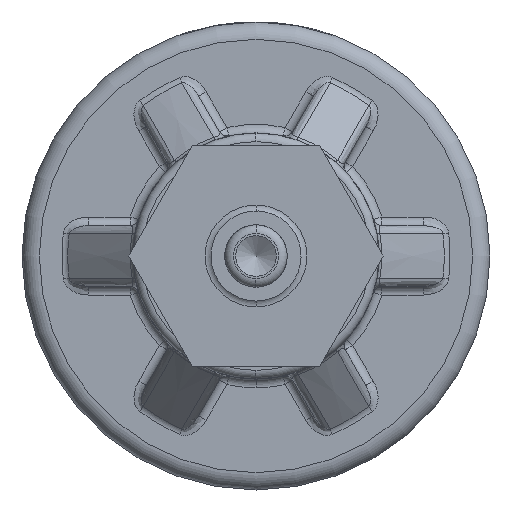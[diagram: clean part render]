
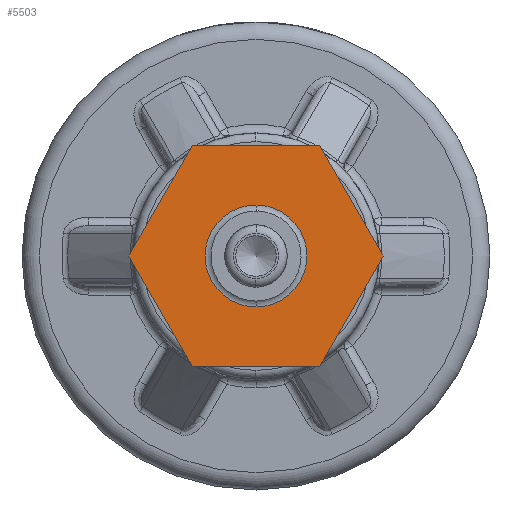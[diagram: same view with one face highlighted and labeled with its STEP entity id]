
A CAD part, left-side view. The second image highlights one B-rep face of the part: STEP entity #5503.
In plain terms, the highlighted planar face has unit normal (-1, 0, 0).
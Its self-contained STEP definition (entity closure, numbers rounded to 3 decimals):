
#155=FACE_BOUND('',#1117,.T.);
#183=PLANE('',#5908);
#347=CIRCLE('',#5860,1.469);
#379=CIRCLE('',#5909,1.469);
#767=FACE_OUTER_BOUND('',#1116,.T.);
#1116=EDGE_LOOP('',(#3522,#3523,#3524,#3525,#3526,#3527));
#1117=EDGE_LOOP('',(#3528,#3529));
#1666=LINE('',#8777,#1869);
#1668=LINE('',#8781,#1871);
#1670=LINE('',#8785,#1873);
#1672=LINE('',#8789,#1875);
#1674=LINE('',#8793,#1877);
#1676=LINE('',#8796,#1879);
#1869=VECTOR('',#6654,3.667);
#1871=VECTOR('',#6658,3.667);
#1873=VECTOR('',#6662,3.667);
#1875=VECTOR('',#6666,3.667);
#1877=VECTOR('',#6670,3.667);
#1879=VECTOR('',#6674,3.667);
#2085=VERTEX_POINT('',#8691);
#2086=VERTEX_POINT('',#8692);
#2115=VERTEX_POINT('',#8774);
#2116=VERTEX_POINT('',#8776);
#2117=VERTEX_POINT('',#8780);
#2118=VERTEX_POINT('',#8784);
#2119=VERTEX_POINT('',#8788);
#2120=VERTEX_POINT('',#8792);
#2600=EDGE_CURVE('',#2085,#2086,#347,.T.);
#2641=EDGE_CURVE('',#2115,#2116,#1666,.T.);
#2643=EDGE_CURVE('',#2116,#2117,#1668,.T.);
#2645=EDGE_CURVE('',#2117,#2118,#1670,.T.);
#2647=EDGE_CURVE('',#2118,#2119,#1672,.T.);
#2649=EDGE_CURVE('',#2119,#2120,#1674,.T.);
#2651=EDGE_CURVE('',#2120,#2115,#1676,.T.);
#2654=EDGE_CURVE('',#2086,#2085,#379,.T.);
#3522=ORIENTED_EDGE('',*,*,#2641,.F.);
#3523=ORIENTED_EDGE('',*,*,#2651,.F.);
#3524=ORIENTED_EDGE('',*,*,#2649,.F.);
#3525=ORIENTED_EDGE('',*,*,#2647,.F.);
#3526=ORIENTED_EDGE('',*,*,#2645,.F.);
#3527=ORIENTED_EDGE('',*,*,#2643,.F.);
#3528=ORIENTED_EDGE('',*,*,#2654,.T.);
#3529=ORIENTED_EDGE('',*,*,#2600,.T.);
#5503=ADVANCED_FACE('',(#767,#155),#183,.F.);
#5860=AXIS2_PLACEMENT_3D('',#8693,#6562,#6563);
#5908=AXIS2_PLACEMENT_3D('',#8841,#6677,#6678);
#5909=AXIS2_PLACEMENT_3D('',#8842,#6679,#6680);
#6562=DIRECTION('center_axis',(1.,0.,0.));
#6563=DIRECTION('ref_axis',(0.,0.,
1.));
#6654=DIRECTION('',(0.,0.5,0.866));
#6658=DIRECTION('',(0.,-0.5,0.866));
#6662=DIRECTION('',(0.,-1.,0.));
#6666=DIRECTION('',(0.,-0.5,-0.866));
#6670=DIRECTION('',(0.,0.5,-0.866));
#6674=DIRECTION('',(0.,1.,0.));
#6677=DIRECTION('center_axis',(1.,0.,0.));
#6678=DIRECTION('ref_axis',(0.,0.,-1.));
#6679=DIRECTION('center_axis',(1.,0.,0.));
#6680=DIRECTION('ref_axis',(0.,0.,-1.));
#8691=CARTESIAN_POINT('',(-11.625,0.,1.469));
#8692=CARTESIAN_POINT('',(-11.625,0.,-1.469));
#8693=CARTESIAN_POINT('Origin',(-11.625,0.,0.));
#8774=CARTESIAN_POINT('',(-11.625,1.834,-3.176));
#8776=CARTESIAN_POINT('',(-11.625,3.667,0.));
#8777=CARTESIAN_POINT('',(-11.625,1.834,-3.176));
#8780=CARTESIAN_POINT('',(-11.625,1.834,3.176));
#8781=CARTESIAN_POINT('',(-11.625,3.667,0.));
#8784=CARTESIAN_POINT('',(-11.625,-1.834,3.176));
#8785=CARTESIAN_POINT('',(-11.625,1.834,3.176));
#8788=CARTESIAN_POINT('',(-11.625,-3.667,0.));
#8789=CARTESIAN_POINT('',(-11.625,-1.834,3.176));
#8792=CARTESIAN_POINT('',(-11.625,-1.834,-3.176));
#8793=CARTESIAN_POINT('',(-11.625,-3.667,0.));
#8796=CARTESIAN_POINT('',(-11.625,-1.834,-3.176));
#8841=CARTESIAN_POINT('Origin',(-11.625,-3.711,0.));
#8842=CARTESIAN_POINT('Origin',(-11.625,0.,0.));
